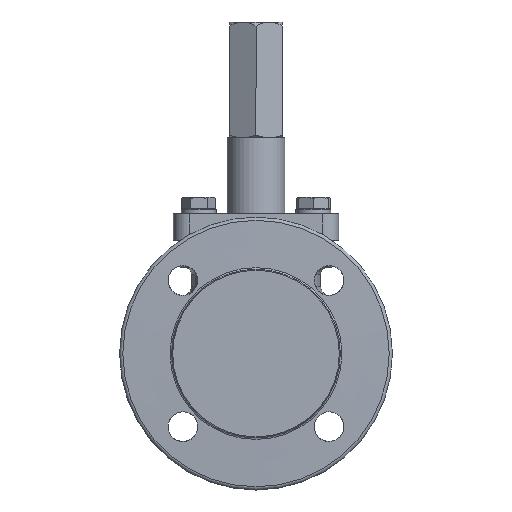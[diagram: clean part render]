
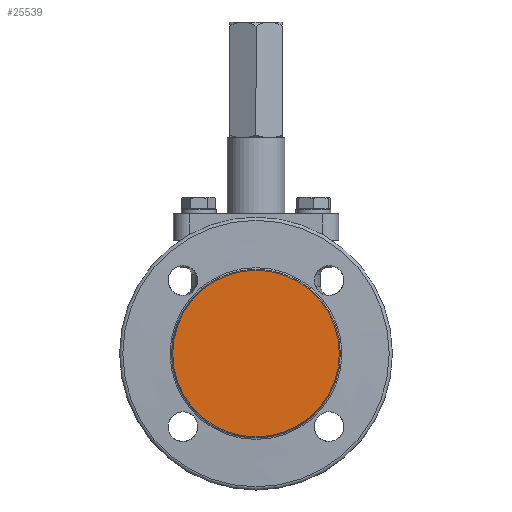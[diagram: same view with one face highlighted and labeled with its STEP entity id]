
A CAD part, left-side view. The second image highlights one B-rep face of the part: STEP entity #25539.
In plain terms, the highlighted planar face has unit normal (-1, 0, 0).
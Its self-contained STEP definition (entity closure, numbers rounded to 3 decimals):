
#25123=CARTESIAN_POINT('',(-115.,0.,50.385));
#25124=VERTEX_POINT('',#25123);
#25125=CARTESIAN_POINT('',(-115.,0.,0.));
#25126=DIRECTION('',(1.0,0.0,0.0));
#25127=DIRECTION('',(0.0,0.0,1.0));
#25128=AXIS2_PLACEMENT_3D('',#25125,#25126,#25127);
#25129=CIRCLE('',#25128,50.385);
#25130=EDGE_CURVE('',#25124,#25124,#25129,.T.);
#25531=CARTESIAN_POINT('',(-115.,0.,0.));
#25532=DIRECTION('',(-1.0,0.0,0.0));
#25533=DIRECTION('',(0.0,0.0,-1.0));
#25534=AXIS2_PLACEMENT_3D('',#25531,#25532,#25533);
#25535=PLANE('',#25534);
#25536=ORIENTED_EDGE('',*,*,#25130,.F.);
#25537=EDGE_LOOP('',(#25536));
#25538=FACE_OUTER_BOUND('',#25537,.T.);
#25539=ADVANCED_FACE('',(#25538),#25535,.T.);
